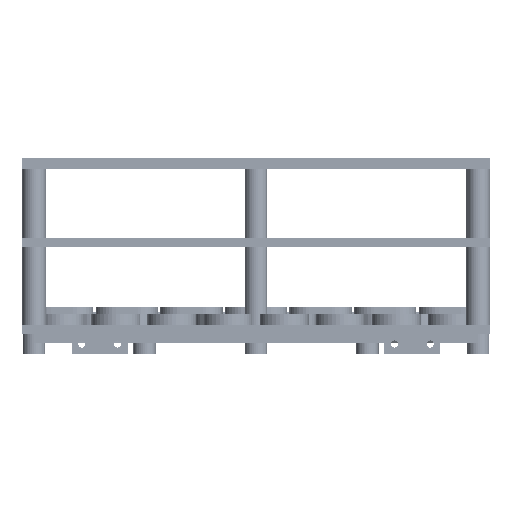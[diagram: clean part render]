
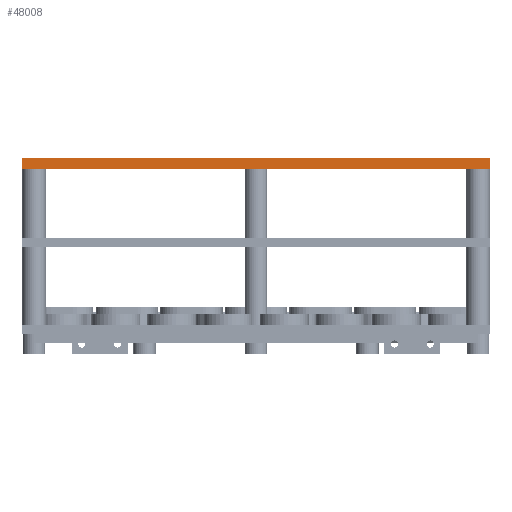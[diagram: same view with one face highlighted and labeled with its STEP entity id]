
A CAD part, left-side view. The second image highlights one B-rep face of the part: STEP entity #48008.
In plain terms, the highlighted planar face has unit normal (-1, 0, 0).
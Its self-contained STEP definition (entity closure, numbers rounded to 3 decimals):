
#1670=PLANE('',#51304);
#3163=FACE_OUTER_BOUND('',#6125,.T.);
#6125=EDGE_LOOP('',(#33696,#33697,#33698,#33699));
#9897=LINE('',#72819,#13809);
#10397=LINE('',#74410,#14309);
#10398=LINE('',#74413,#14310);
#10399=LINE('',#74414,#14311);
#13809=VECTOR('',#56778,10.);
#14309=VECTOR('',#58500,10.);
#14310=VECTOR('',#58503,10.);
#14311=VECTOR('',#58504,10.);
#20863=VERTEX_POINT('',#72816);
#20864=VERTEX_POINT('',#72818);
#21344=VERTEX_POINT('',#74408);
#21345=VERTEX_POINT('',#74412);
#25163=EDGE_CURVE('',#20863,#20864,#9897,.T.);
#25971=EDGE_CURVE('',#21344,#20864,#10397,.T.);
#25972=EDGE_CURVE('',#21344,#21345,#10398,.T.);
#25973=EDGE_CURVE('',#21345,#20863,#10399,.T.);
#33696=ORIENTED_EDGE('',*,*,#25972,.F.);
#33697=ORIENTED_EDGE('',*,*,#25971,.T.);
#33698=ORIENTED_EDGE('',*,*,#25163,.F.);
#33699=ORIENTED_EDGE('',*,*,#25973,.F.);
#48008=ADVANCED_FACE('',(#3163),#1670,.T.);
#51304=AXIS2_PLACEMENT_3D('',#74411,#58501,#58502);
#56778=DIRECTION('',(0.,-1.,0.));
#58500=DIRECTION('',(0.,0.,1.));
#58501=DIRECTION('center_axis',(-1.,0.,0.));
#58502=DIRECTION('ref_axis',(0.,-1.,0.));
#58503=DIRECTION('',(0.,1.,0.));
#58504=DIRECTION('',(0.,0.,1.));
#72816=CARTESIAN_POINT('',(-105.,105.,5.));
#72818=CARTESIAN_POINT('',(-105.,-105.,5.));
#72819=CARTESIAN_POINT('',(-105.,-105.,5.));
#74408=CARTESIAN_POINT('',(-105.,-105.,0.));
#74410=CARTESIAN_POINT('',(-105.,-105.,0.));
#74411=CARTESIAN_POINT('Origin',(-105.,105.,0.));
#74412=CARTESIAN_POINT('',(-105.,105.,0.));
#74413=CARTESIAN_POINT('',(-105.,-105.,0.));
#74414=CARTESIAN_POINT('',(-105.,105.,0.));
